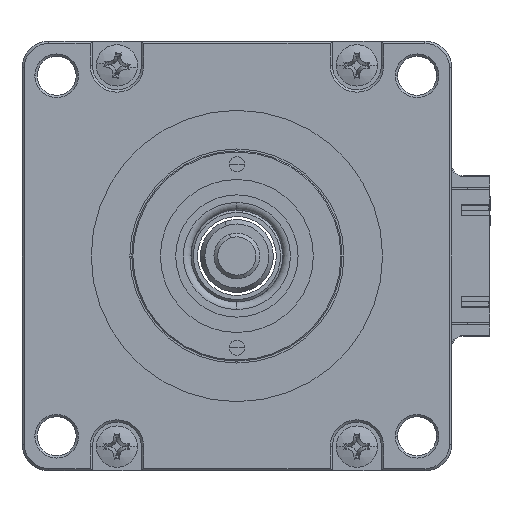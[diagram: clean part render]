
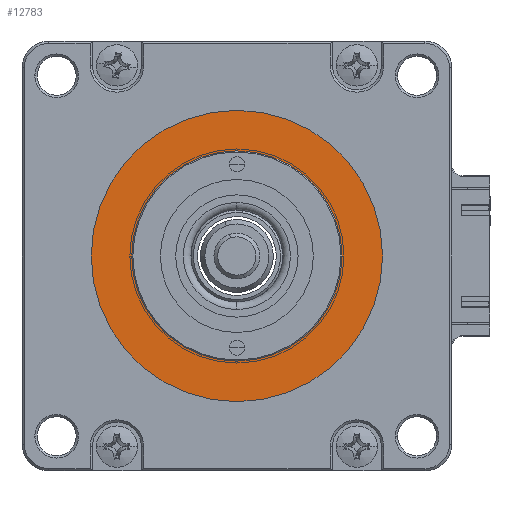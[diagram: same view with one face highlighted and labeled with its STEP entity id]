
A CAD part, left-side view. The second image highlights one B-rep face of the part: STEP entity #12783.
In plain terms, the highlighted planar face has unit normal (-1, 0, 0).
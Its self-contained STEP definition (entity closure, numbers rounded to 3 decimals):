
#228 = DIRECTION ( 'NONE',  ( -1., 0., 0. ) ) ;
#250 = VERTEX_POINT ( 'NONE', #6620 ) ;
#447 = EDGE_CURVE ( 'NONE', #10100, #250, #5309, .T. ) ;
#524 = CARTESIAN_POINT ( 'NONE',  ( -38.623, -14.578, 48.3 ) ) ;
#1269 = AXIS2_PLACEMENT_3D ( 'NONE', #5706, #12925, #6759 ) ;
#1865 = PLANE ( 'NONE',  #7688 ) ;
#2330 = ORIENTED_EDGE ( 'NONE', *, *, #6542, .F. ) ;
#2874 = CARTESIAN_POINT ( 'NONE',  ( -38.623, 29.072, 72.9 ) ) ;
#3489 = EDGE_CURVE ( 'NONE', #250, #10100, #12394, .T. ) ;
#3885 = ORIENTED_EDGE ( 'NONE', *, *, #3489, .T. ) ;
#3892 = DIRECTION ( 'NONE',  ( -1., 0., 0. ) ) ;
#4917 = DIRECTION ( 'NONE',  ( -1., 0., 0. ) ) ;
#4958 = FACE_OUTER_BOUND ( 'NONE', #11542, .T. ) ;
#5309 = CIRCLE ( 'NONE', #12422, 19.05 ) ;
#5706 = CARTESIAN_POINT ( 'NONE',  ( -38.623, 4.472, 48.3 ) ) ;
#6005 = VERTEX_POINT ( 'NONE', #12436 ) ;
#6041 = VERTEX_POINT ( 'NONE', #9471 ) ;
#6283 = CARTESIAN_POINT ( 'NONE',  ( -38.623, 4.472, 48.3 ) ) ;
#6542 = EDGE_CURVE ( 'NONE', #6041, #6005, #12020, .T. ) ;
#6620 = CARTESIAN_POINT ( 'NONE',  ( -38.623, 23.522, 48.3 ) ) ;
#6759 = DIRECTION ( 'NONE',  ( 0., -1., 0. ) ) ;
#7313 = DIRECTION ( 'NONE',  ( 0., -1., 0. ) ) ;
#7332 = AXIS2_PLACEMENT_3D ( 'NONE', #6283, #228, #7313 ) ;
#7688 = AXIS2_PLACEMENT_3D ( 'NONE', #2874, #4917, #12130 ) ;
#8320 = AXIS2_PLACEMENT_3D ( 'NONE', #10068, #3892, #11088 ) ;
#8566 = CIRCLE ( 'NONE', #7332, 13.75 ) ;
#9045 = ORIENTED_EDGE ( 'NONE', *, *, #11533, .F. ) ;
#9471 = CARTESIAN_POINT ( 'NONE',  ( -38.623, -9.278, 48.3 ) ) ;
#9760 = ORIENTED_EDGE ( 'NONE', *, *, #447, .T. ) ;
#10068 = CARTESIAN_POINT ( 'NONE',  ( -38.623, 4.472, 48.3 ) ) ;
#10100 = VERTEX_POINT ( 'NONE', #524 ) ;
#11088 = DIRECTION ( 'NONE',  ( 0., -1., 0. ) ) ;
#11533 = EDGE_CURVE ( 'NONE', #6005, #6041, #8566, .T. ) ;
#11542 = EDGE_LOOP ( 'NONE', ( #9760, #3885 ) ) ;
#11645 = EDGE_LOOP ( 'NONE', ( #9045, #2330 ) ) ;
#12020 = CIRCLE ( 'NONE', #8320, 13.75 ) ;
#12130 = DIRECTION ( 'NONE',  ( 0., -1., 0. ) ) ;
#12394 = CIRCLE ( 'NONE', #1269, 19.05 ) ;
#12422 = AXIS2_PLACEMENT_3D ( 'NONE', #13111, #12709, #12456 ) ;
#12436 = CARTESIAN_POINT ( 'NONE',  ( -38.623, 18.222, 48.3 ) ) ;
#12456 = DIRECTION ( 'NONE',  ( 0., -1., 0. ) ) ;
#12709 = DIRECTION ( 'NONE',  ( -1., 0., 0. ) ) ;
#12783 = ADVANCED_FACE ( 'NONE', ( #12845, #4958 ), #1865, .T. ) ;
#12845 = FACE_BOUND ( 'NONE', #11645, .T. ) ;
#12925 = DIRECTION ( 'NONE',  ( -1., 0., 0. ) ) ;
#13111 = CARTESIAN_POINT ( 'NONE',  ( -38.623, 4.472, 48.3 ) ) ;
